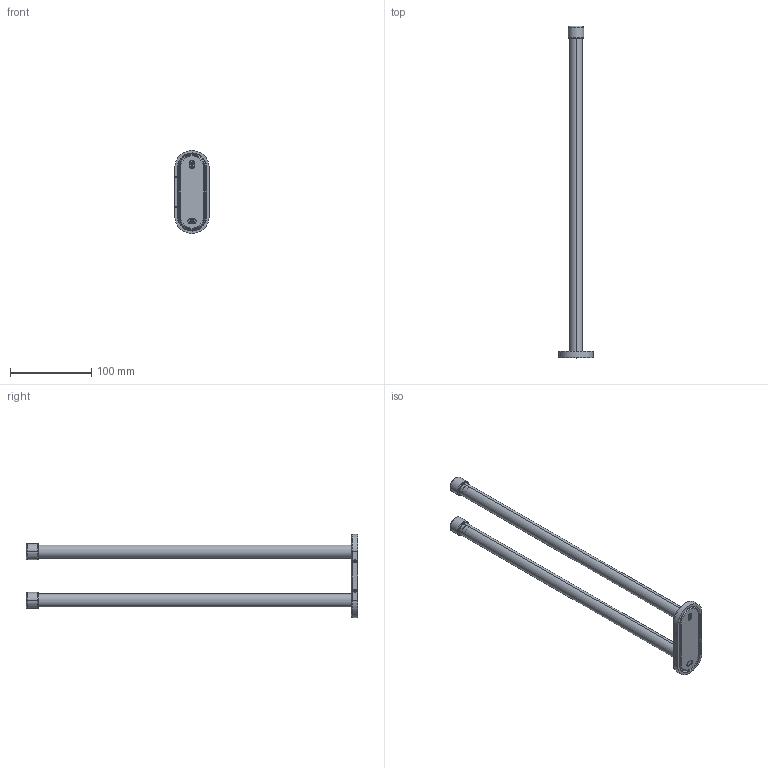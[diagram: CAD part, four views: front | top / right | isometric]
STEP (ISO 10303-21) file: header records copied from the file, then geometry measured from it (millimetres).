
FILE_DESCRIPTION((''),'2;1');
FILE_NAME('48342--00_SUB01_ASM','2026-10-14T10:17:17',('simi1'),(''),'CREO PARAMETRIC BY PTC INC, 2022244','CREO PARAMETRIC BY PTC INC, 2022244','');
FILE_SCHEMA(('CONFIG_CONTROL_DESIGN'));
Length unit declared in the file: millimetre
Products named in the file (10): 4634900; 46348--; 4634400; 4634600; 7983885; 46345--_ASM; 4670700; 46389--_ASM; 4658200; 48342--00_SUB01_ASM
Assembly tree (12 placements, depth 4):
  48342--00_SUB01_ASM
    4634900
    46389--_ASM
      46348--
      46345--_ASM  x2
        4634400
        4634600
        7983885
      4670700  x2
    4658200  x2
Bounding box: 42.3 x 408 x 102.3 mm (x, y, z)
Volume: 59376.2 mm3; surface area: 100311.7 mm2
Topology: 12 solids, 14 shells, 330 faces, 784 edges, 484 vertices
Faces by surface type: cylinder 108, cone 82, plane 78, bspline 32, torus 26, sphere 4
Entity records: 10887 total; most frequent: CARTESIAN_POINT 6081, DIRECTION 995, ORIENTED_EDGE 932, EDGE_CURVE 468, AXIS2_PLACEMENT_3D 401, VERTEX_POINT 292, EDGE_LOOP 226, FACE_OUTER_BOUND 200
